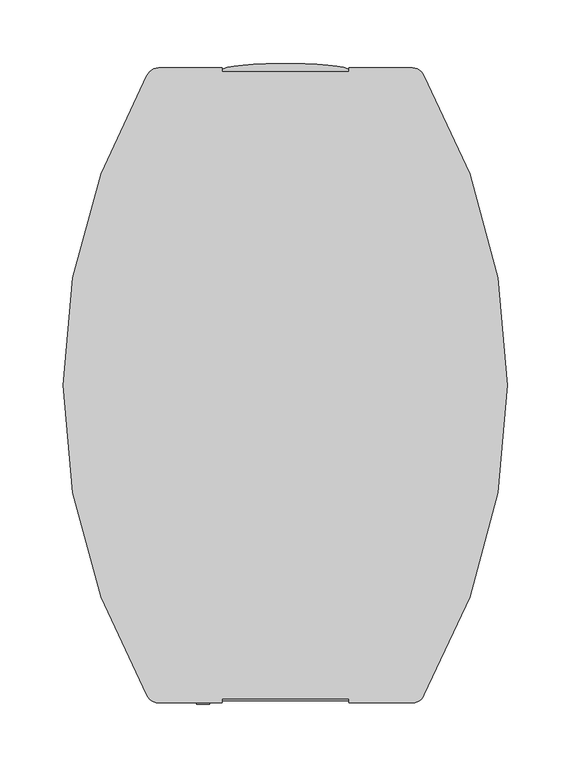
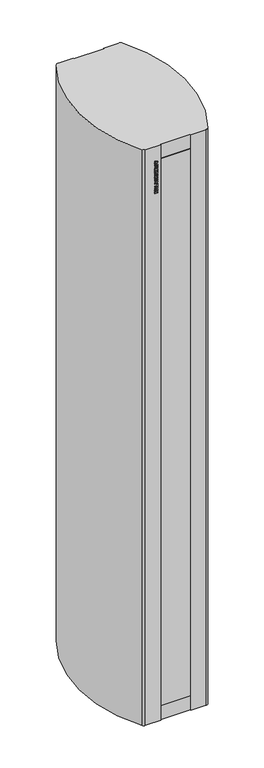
"""IFC4 building model written with IfcOpenShell, lengths in millimetres: proxy geometry, ADSK_Завеса дизайнерская_Электрическая : KVC-S20E18-31."""

from ifc_helpers import new_model, si_unit, point, frame, frame_2d, origin, origin_with_axes, place, context, project, spatial, polyline, circle_curve, ellipse_curve, trimmed, segment, composite_curve, outline, extrude, faceted_brep, source, transform, mapped, element, save
from ifc_brep_helpers import plane_surface, extruded_surface, advanced_brep


def mechanical_equipment_894f7229(model_context):
    return source(origin(), model_context, "Body", "SolidModel", [
        extrude(outline(polyline([(1850.0784314, -70.0), (1850.0784314, -60.0), (1853.2156863, -60.0), (1853.2156863, -61.7647059), (1854.9865196, -63.7745098), (1856.8186275, -60.0), (1860.6666667, -60.0), (1857.192402, -66.2775735), (1860.4705882, -70.0), (1856.1997549, -70.0), (1853.2156863, -66.2224265), (1853.2156863, -70.0), (1850.0784314, -70.0)])), frame((0.0, -251.0, 0.0), z_axis=(0.0, 1.0, 0.0), x_axis=(0.0, 0.0, 1.0)), (0.0, 0.0, 1.0), 1.0),
        extrude(outline(polyline([(1867.6642157, -61.5686275), (1868.1176471, -60.0), (1871.4509804, -60.0), (1868.0778186, -70.0), (1864.0398284, -70.0), (1860.6666667, -60.0), (1864.0, -60.0), (1864.4319853, -61.5686275), (1867.6642157, -61.5686275)]), holes=[polyline([(1867.0698529, -63.9215686), (1865.0814951, -63.9215686), (1866.0588235, -67.4540441), (1867.0698529, -63.9215686)])]), frame((0.0, -251.0, 0.0), z_axis=(0.0, 1.0, 0.0), x_axis=(0.0, 0.0, 1.0)), (0.0, 0.0, 1.0), 1.0),
        extrude(outline(polyline([(1872.4313725, -70.0), (1872.4313725, -60.0), (1880.2745098, -60.0), (1880.2745098, -62.3529412), (1875.5686275, -62.3529412), (1875.5686275, -70.0), (1872.4313725, -70.0)])), frame((0.0, -251.0, 0.0), z_axis=(0.0, 1.0, 0.0), x_axis=(0.0, 0.0, 1.0)), (0.0, 0.0, 1.0), 1.0),
        extrude(outline(polyline([(1887.6642157, -61.5686275), (1888.1176471, -60.0), (1891.4509804, -60.0), (1888.0778186, -70.0), (1884.0398284, -70.0), (1880.6666667, -60.0), (1884.0, -60.0), (1884.4319853, -61.5686275), (1887.6642157, -61.5686275)]), holes=[polyline([(1887.0698529, -63.9215686), (1885.0814951, -63.9215686), (1886.0588235, -67.4540441), (1887.0698529, -63.9215686)])]), frame((0.0, -251.0, 0.0), z_axis=(0.0, 1.0, 0.0), x_axis=(0.0, 0.0, 1.0)), (0.0, 0.0, 1.0), 1.0),
        extrude(outline(polyline([(1891.8431373, -63.3394608), (1892.9491422, -60.8026961), (1896.4601716, -59.8039216), (1898.8560049, -60.2297794), (1900.3342525, -61.4813113), (1900.8627451, -63.28125), (1900.4675245, -64.7870711), (1899.2022059, -65.9129902), (1896.3223039, -66.8106618), (1896.1905637, -68.4313725), (1896.9641544, -68.1050858), (1897.3333333, -67.0588235), (1900.4705882, -67.2395833), (1899.2925858, -69.4883578), (1896.4172794, -70.1960784), (1893.9969363, -69.8039216), (1892.6749387, -68.7285539), (1892.2352941, -67.276348), (1893.1023284, -65.3492647), (1895.9761029, -64.1237745), (1897.7254902, -62.8186275), (1897.4114583, -62.0818015), (1896.5183824, -61.7647059), (1895.3204657, -62.3958333), (1894.9803922, -63.5294118), (1891.8431373, -63.3394608)])), frame((0.0, -251.0, 0.0), z_axis=(0.0, 1.0, 0.0), x_axis=(0.0, 0.0, 1.0)), (0.0, 0.0, 1.0), 1.0),
        extrude(outline(polyline([(1902.4313725, -70.0), (1902.4313725, -60.0), (1905.5686275, -60.0), (1905.5686275, -64.1176471), (1908.9019608, -64.1176471), (1908.9019608, -60.0), (1912.0392157, -60.0), (1912.0392157, -70.0), (1908.9019608, -70.0), (1908.9019608, -66.4705882), (1905.5686275, -66.4705882), (1905.5686275, -70.0), (1902.4313725, -70.0)])), frame((0.0, -251.0, 0.0), z_axis=(0.0, 1.0, 0.0), x_axis=(0.0, 0.0, 1.0)), (0.0, 0.0, 1.0), 1.0),
        extrude(outline(polyline([(1914.0, -70.0), (1914.0, -60.0), (1916.9411765, -60.0), (1916.9411765, -65.4901961), (1920.6666667, -60.0), (1923.6078431, -60.0), (1923.6078431, -70.0), (1920.6666667, -70.0), (1920.6666667, -64.4730392), (1916.9197304, -70.0), (1914.0, -70.0)])), frame((0.0, -251.0, 0.0), z_axis=(0.0, 1.0, 0.0), x_axis=(0.0, 0.0, 1.0)), (0.0, 0.0, 1.0), 1.0),
        extrude(outline(polyline([(-60.0, -251.0), (-70.0, -251.0), (-70.0, -250.0), (-60.0, -250.0), (-60.0, -251.0)])), frame((0.0, 0.0, 1925.7647059), z_axis=(0.0, 0.0, 1.0), x_axis=(1.0, 0.0, 0.0)), (0.0, 0.0, 1.0), 3.1372549),
        extrude(outline(polyline([(1931.0588235, -70.0), (1931.0588235, -60.0), (1934.1960784, -60.0), (1934.1960784, -61.7647059), (1935.9669118, -63.7745098), (1937.7990196, -60.0), (1941.6470588, -60.0), (1938.1727941, -66.2775735), (1941.4509804, -70.0), (1937.1801471, -70.0), (1934.1960784, -66.2224265), (1934.1960784, -70.0), (1931.0588235, -70.0)])), frame((0.0, -251.0, 0.0), z_axis=(0.0, 1.0, 0.0), x_axis=(0.0, 0.0, 1.0)), (0.0, 0.0, 1.0), 1.0),
        extrude(outline(polyline([(1942.2352941, -64.9938725), (1942.9261642, -62.0603554), (1944.7291667, -60.346201), (1947.5386029, -59.8039216), (1950.3250613, -60.4304534), (1952.036152, -62.1859681), (1952.627451, -65.0765931), (1951.2732843, -68.8495711), (1947.4129902, -70.1960784), (1943.6032475, -68.8250613), (1942.2352941, -64.9938725)]), holes=[polyline([(1945.372549, -64.9938725), (1945.9301471, -67.1813725), (1947.4068627, -67.8431373), (1948.9295343, -67.1920956), (1949.4901961, -65.1286765), (1948.9525123, -62.8048407), (1947.4344363, -62.1568627), (1945.9270833, -62.8186275), (1945.372549, -64.9938725)])]), frame((0.0, -251.0, 0.0), z_axis=(0.0, 1.0, 0.0), x_axis=(0.0, 0.0, 1.0)), (0.0, 0.0, 1.0), 1.0),
        extrude(outline(polyline([(1953.4117647, -70.0), (1957.1280637, -60.0), (1960.4583333, -60.0), (1964.1960784, -70.0), (1960.8627451, -70.0), (1958.8039216, -62.8033088), (1956.7420343, -70.0), (1953.4117647, -70.0)])), frame((0.0, -251.0, 0.0), z_axis=(0.0, 1.0, 0.0), x_axis=(0.0, 0.0, 1.0)), (0.0, 0.0, 1.0), 1.0),
        faceted_brep([(50.0, -247.0, 1964.0), (-50.0, -247.0, 1964.0), (-50.0, -248.5, 1964.0), (50.0, -248.5, 1964.0), (50.0, -247.0, 50.0), (50.0, -248.5, 50.0), (-50.0, -248.5, 50.0), (-50.0, -247.0, 50.0)], [[[0, 1, 2, 3]], [[4, 5, 6, 7]], [[1, 0, 4, 7]], [[2, 1, 7, 6]], [[3, 2, 6, 5]], [[0, 3, 5, 4]]]),
        advanced_brep(
        [(-50.0, 248.5, 1964.0), (-50.0, 247.0, 1964.0), (50.0, 247.0, 1964.0), (50.0, 248.5, 1964.0), (-50.0, 248.5, 50.0), (50.0, 248.5, 50.0), (50.0, 247.0, 50.0), (-50.0, 247.0, 50.0)],
        [
            (0, 1),
            (1, 2),
            (2, 3),
            (3, 0, ellipse_curve(frame((0.0, 248.5, 1964.0), z_axis=(0.0, 0.0, 1.0), x_axis=(-1.0, 0.0, 0.0)), 50.0, 5.0)),
            (4, 5, ellipse_curve(frame((0.0, 248.5, 50.0), z_axis=(0.0, 0.0, -1.0), x_axis=(-1.0, 0.0, 0.0)), 50.0, 5.0)),
            (5, 6),
            (6, 7),
            (7, 4),
            (0, 4),
            (7, 1),
            (6, 2),
            (5, 3),
        ],
        [
            plane_surface(frame((-50.0, -247.0, 1964.0), z_axis=(0.0, 0.0, 1.0), x_axis=(-1.0, 0.0, 0.0))),
            plane_surface(frame((-50.0, -247.0, 50.0), z_axis=(0.0, 0.0, -1.0), x_axis=(1.0, 0.0, 0.0))),
            plane_surface(frame((-50.0, 248.5, 1964.0), z_axis=(-1.0, 0.0, 0.0), x_axis=(0.0, 0.0, -1.0))),
            plane_surface(frame((-50.0, 247.0, 1964.0), z_axis=(0.0, -1.0, 0.0), x_axis=(0.0, 0.0, -1.0))),
            plane_surface(frame((50.0, 247.0, 1964.0), z_axis=(1.0, 0.0, 0.0), x_axis=(0.0, 0.0, -1.0))),
            extruded_surface(trimmed(ellipse_curve(frame((0.0, 248.5, -1914.0), z_axis=(0.0, 0.0, 1.0), x_axis=(-1.0, 0.0, 0.0)), 50.0, 5.0), [point((50.0, 248.5, -1914.0))], [point((-50.0, 248.5, -1914.0))], True, "CARTESIAN"), (0.0, 0.0, 1914.0), 1914.0),
        ],
        [
            (0, [[1, 2, 3, 4]]),
            (1, [[5, 6, 7, 8]]),
            (2, [[-1, 9, -8, 10]]),
            (3, [[-2, -10, -7, 11]]),
            (4, [[-3, -11, -6, 12]]),
            (5, [[-4, -12, -5, -9]]),
        ],
    ),
        extrude(outline(composite_curve([segment(polyline([(-50.0, 250.0), (-50.0, 247.0), (50.0, 247.0), (50.0, 250.0), (100.0, 250.0)]), True, "CONTINUOUS"), segment(trimmed(circle_curve(frame_2d((100.0, 240.0)), 10.0), [point((100.0, 250.0))], [point((109.287324, 243.7075077))], False, "CARTESIAN"), True, "CONTINUOUS"), segment(trimmed(circle_curve(frame_2d((-309.7733265, 0.0)), 484.7733265), [point((109.287324, 243.7075077))], [point((109.287324, -243.7075077))], False, "CARTESIAN"), True, "CONTINUOUS"), segment(trimmed(circle_curve(frame_2d((100.0, -240.0)), 10.0), [point((109.287324, -243.7075077))], [point((100.0, -250.0))], False, "CARTESIAN"), True, "CONTINUOUS"), segment(polyline([(100.0, -250.0), (50.0, -250.0), (50.0, -247.0), (-50.0, -247.0), (-50.0, -250.0), (-100.0, -250.0)]), True, "CONTINUOUS"), segment(trimmed(circle_curve(frame_2d((-100.0, -240.0)), 10.0), [point((-100.0, -250.0))], [point((-109.287324, -243.7075077))], False, "CARTESIAN"), True, "CONTINUOUS"), segment(trimmed(circle_curve(frame_2d((309.7733265, 0.0)), 484.7733265), [point((-109.287324, -243.7075077))], [point((-109.287324, 243.7075077))], False, "CARTESIAN"), True, "CONTINUOUS"), segment(trimmed(circle_curve(frame_2d((-100.0, 240.0)), 10.0), [point((-109.287324, 243.7075077))], [point((-100.0, 250.0))], False, "CARTESIAN"), True, "CONTINUOUS"), segment(polyline([(-100.0, 250.0), (-50.0, 250.0)]), True, "CONTINUOUS")], self_intersect=False)), origin_with_axes(), (0.0, 0.0, 1.0), 2014.0),
    ])


if __name__ == "__main__":
    model = new_model("IFC4")
    model_context = context("Model", 3, world=origin())
    ifc_project = project(units=[si_unit("LENGTHUNIT", "METRE", prefix="MILLI")], contexts=[model_context])
    site = spatial("IfcSite", under=ifc_project)
    building = spatial("IfcBuilding", under=site)
    placement = place(None, origin())
    mechanical_equipment_shape = mechanical_equipment_894f7229(model_context)
    element("IfcBuildingElementProxy", 1, Name="ADSK_Завеса дизайнерская_Электрическая : KVC-S20E18-31", ObjectType="ADSK_Завеса дизайнерская_Электрическая : KVC-S20E18-31", at=placement, inside=building, context=model_context, shape_type="MappedRepresentation", body=[
        mapped(mechanical_equipment_shape, transform((0.0, 0.0, 0.0), x_axis=(1.0, 0.0, 0.0), y_axis=(0.0, 1.0, 0.0), z_axis=(0.0, 0.0, 1.0))),
    ])
    save(model, "model.ifc")
